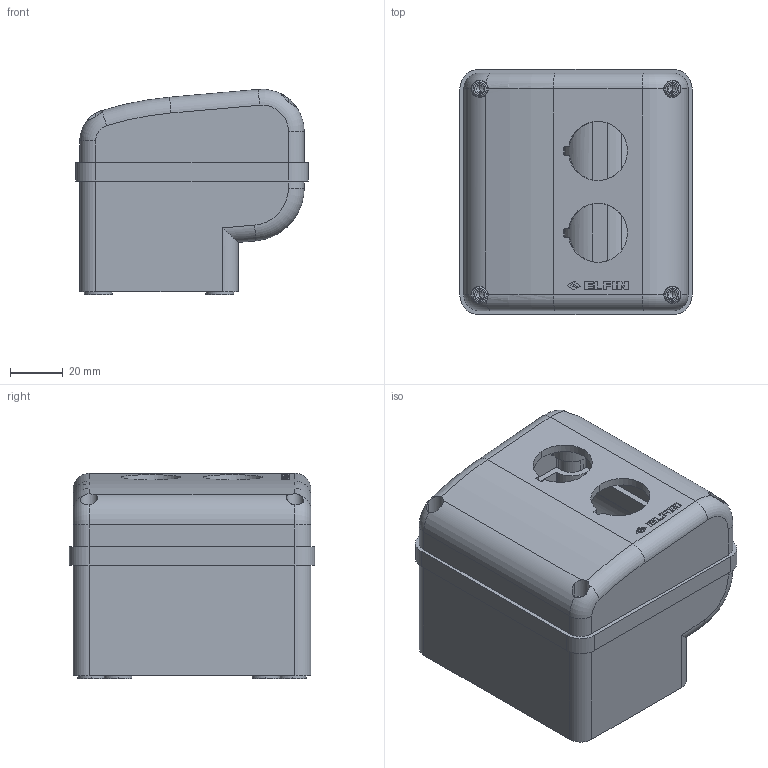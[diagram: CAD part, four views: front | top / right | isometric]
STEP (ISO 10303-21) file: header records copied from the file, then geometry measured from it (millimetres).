
FILE_DESCRIPTION (( 'STEP AP214' ), '1' );
FILE_NAME ('080E90-P2.STEP', '2026-02-09T14:35:20', ( '' ), ( '' ), 'SwSTEP 2.0', 'SolidWorks 2025', '' );
FILE_SCHEMA (( 'AUTOMOTIVE_DESIGN' ));
Length unit declared in the file: millimetre
Products named in the file (5): 224074A; 10209 Vite TC ø3,5x24 Torx T15; 225331 - WEB; 080E90-P2; 225327-P2 - WEB
Assembly tree (7 placements, depth 2):
  080E90-P2
    225331 - WEB
    224074A
    225327-P2 - WEB
    10209 Vite TC ø3,5x24 Torx T15  x4
Bounding box: 88 x 93 x 77.68 mm (x, y, z)
Volume: 124833.8 mm3; surface area: 83990.3 mm2
Topology: 7 solids, 7 shells, 673 faces, 1806 edges, 1174 vertices
Faces by surface type: cylinder 325, plane 268, cone 32, torus 26, bspline 21, sphere 1
Entity records: 16883 total; most frequent: CARTESIAN_POINT 4775, ORIENTED_EDGE 2586, DIRECTION 2401, EDGE_CURVE 1293, VERTEX_POINT 850, AXIS2_PLACEMENT_3D 846, LINE 709, VECTOR 709
